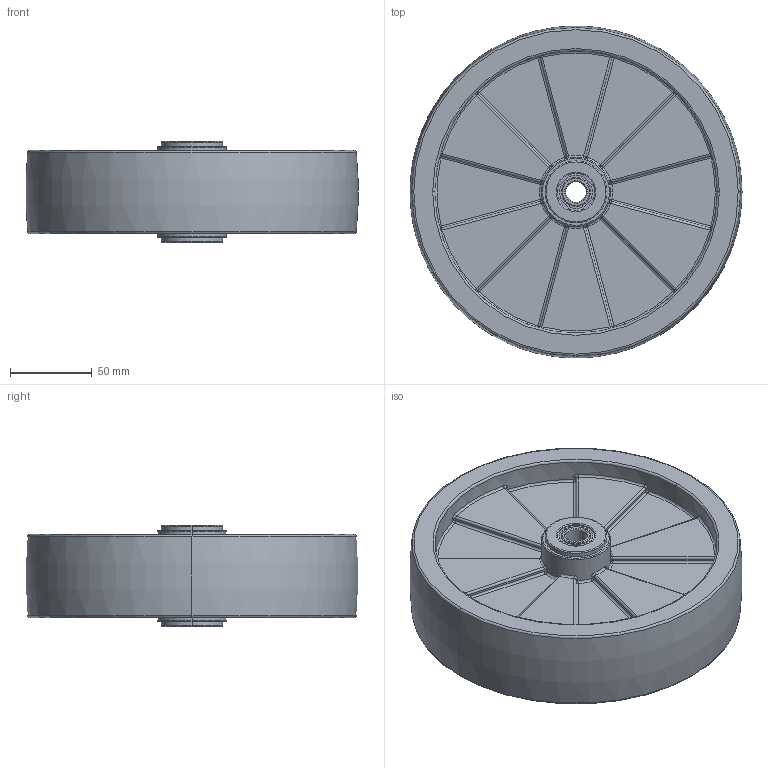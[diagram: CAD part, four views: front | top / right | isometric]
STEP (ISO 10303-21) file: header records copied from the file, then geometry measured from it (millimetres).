
FILE_DESCRIPTION (( 'STEP AP214' ), '1' );
FILE_NAME ('SCC-GFNR820 3D STEP.STEP', '2022-02-13T15:23:05', ( '' ), ( '' ), 'SwSTEP 2.0', 'SolidWorks 2016', '' );
FILE_SCHEMA (( 'AUTOMOTIVE_DESIGN' ));
Length unit declared in the file: inch
Products named in the file (1): SCC-GFNR820 3D STEP
Bounding box: 202.94 x 202.71 x 61.91 mm (x, y, z)
Volume: 1051311.2 mm3; surface area: 119602.6 mm2
Topology: 1 solids, 1 shells, 384 faces, 878 edges, 482 vertices
Faces by surface type: cylinder 134, torus 74, plane 60, sphere 60, bspline 48, cone 8
Entity records: 18350 total; most frequent: CARTESIAN_POINT 5153, DIRECTION 1904, ORIENTED_EDGE 1660, AXIS2_PLACEMENT_3D 833, EDGE_CURVE 830, CIRCLE 496, VERTEX_POINT 458, EDGE_LOOP 396
